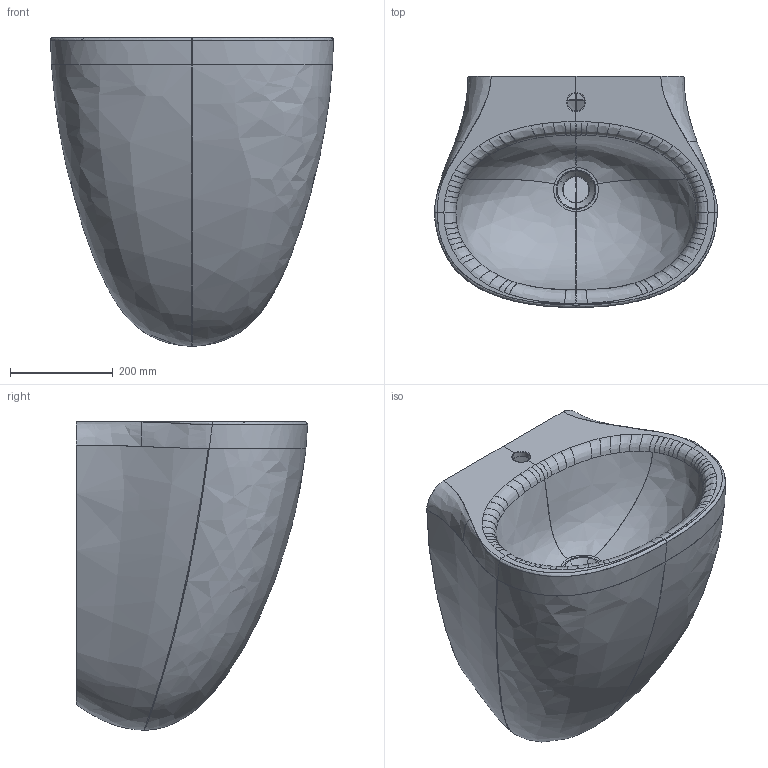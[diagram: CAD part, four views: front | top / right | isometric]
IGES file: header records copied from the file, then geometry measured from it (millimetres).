
Start section: START RECORD GO HERE.
Global section: file name: 7100_3D.igs; native system: DASSAULT SYSTEMES CATIA V5 R19 - www.3ds.com; preprocessor: CATIA Version 5 Release 19 SP 5 ; author: Luca; organization: DESKTOP-V7SON24; date: 20201027.113535; units: millimetre
Bounding box: 550.05 x 449.82 x 599.83 mm (x, y, z)
Surface area: 2032461.5 mm2 (no closed solid volume)
Topology: 0 solids, 0 shells, 246 faces, 1400 edges, 1394 vertices
Faces by surface type: bspline 197, revolution 25, plane 16, extrusion 8
